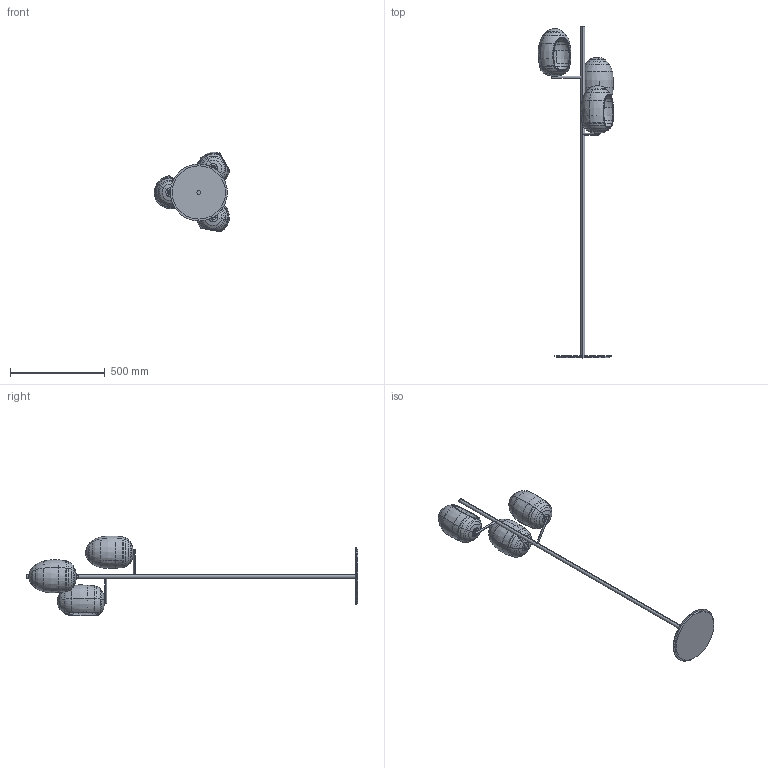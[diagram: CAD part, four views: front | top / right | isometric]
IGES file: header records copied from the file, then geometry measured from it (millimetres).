
Start section: SolidWorks IGES file using analytic representation for surfaces
Global section: file name: Y:\eforma\TECNICO\SOLIDWORKS\E-FORMA\09-LAMPADE\FOS\02 parts\FOST1_FOS_terra.IGS; native system: SolidWorks 2022; preprocessor: SolidWorks 2022; author: eforma.tech; date: 250429.100928; units: millimetre
Bounding box: 397.52 x 1747.5 x 419.83 mm (x, y, z)
Volume: 2526824.1 mm3; surface area: 1345515.1 mm2
Topology: 27 solids, 27 shells, 562 faces, 1454 edges, 926 vertices
Faces by surface type: revolution 439, bspline 72, plane 51
